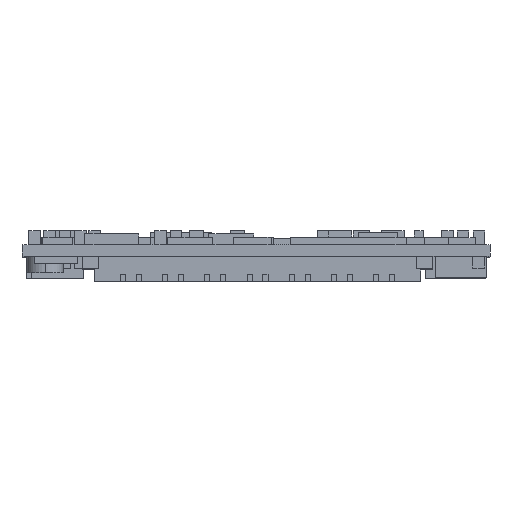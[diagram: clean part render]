
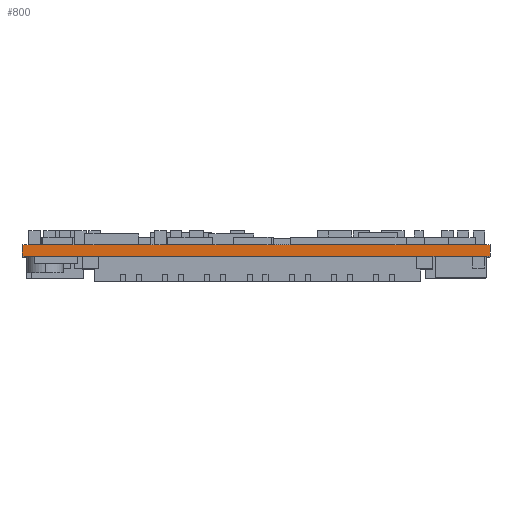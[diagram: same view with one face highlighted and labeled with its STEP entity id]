
A CAD part, top view. The second image highlights one B-rep face of the part: STEP entity #800.
In plain terms, the highlighted planar face has unit normal (0, 0, 1).
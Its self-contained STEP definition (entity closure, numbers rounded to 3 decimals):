
#800 = ADVANCED_FACE ( 'NONE', ( #7051 ), #7055, .F. ) ;
#947 = EDGE_CURVE ( 'NONE', #5271, #5272, #8453, .T. ) ;
#1034 = EDGE_LOOP ( 'NONE', ( #1153, #1154, #1155, #1156 ) ) ;
#1153 = ORIENTED_EDGE ( 'NONE', *, *, #947, .T. ) ;
#1154 = ORIENTED_EDGE ( 'NONE', *, *, #1383, .F. ) ;
#1155 = ORIENTED_EDGE ( 'NONE', *, *, #1282, .F. ) ;
#1156 = ORIENTED_EDGE ( 'NONE', *, *, #1381, .T. ) ;
#1282 = EDGE_CURVE ( 'NONE', #6102, #6101, #9123, .T. ) ;
#1381 = EDGE_CURVE ( 'NONE', #6102, #5271, #9639, .T. ) ;
#1383 = EDGE_CURVE ( 'NONE', #6101, #5272, #9647, .T. ) ;
#5271 = VERTEX_POINT ( 'NONE', #20538 ) ;
#5272 = VERTEX_POINT ( 'NONE', #20539 ) ;
#6101 = VERTEX_POINT ( 'NONE', #21016 ) ;
#6102 = VERTEX_POINT ( 'NONE', #21017 ) ;
#7051 = FACE_OUTER_BOUND ( 'NONE', #1034, .T. ) ;
#7055 = PLANE ( 'NONE',  #21885 ) ;
#7057 = CARTESIAN_POINT ( 'NONE',  ( -32.5, 1.6, 37.5 ) ) ;
#7059 = DIRECTION ( 'NONE',  ( 0., 0., -1. ) ) ;
#7060 = DIRECTION ( 'NONE',  ( -1., 0., 0. ) ) ;
#8453 = LINE ( 'NONE', #8459, #8661 ) ;
#8459 = CARTESIAN_POINT ( 'NONE',  ( -32.5, 0., 37.5 ) ) ;
#8461 = DIRECTION ( 'NONE',  ( 1., 0., 0. ) ) ;
#8661 = VECTOR ( 'NONE', #8461, 1000. ) ;
#9123 = LINE ( 'NONE', #9130, #9340 ) ;
#9130 = CARTESIAN_POINT ( 'NONE',  ( -32.5, 1.6, 37.5 ) ) ;
#9131 = DIRECTION ( 'NONE',  ( 1., 0., 0. ) ) ;
#9340 = VECTOR ( 'NONE', #9131, 1000. ) ;
#9617 = CARTESIAN_POINT ( 'NONE',  ( -32.5, 1.6, 37.5 ) ) ;
#9639 = LINE ( 'NONE', #9617, #9944 ) ;
#9643 = DIRECTION ( 'NONE',  ( 0., -1., 0. ) ) ;
#9647 = LINE ( 'NONE', #9648, #9949 ) ;
#9648 = CARTESIAN_POINT ( 'NONE',  ( 32.5, 1.6, 37.5 ) ) ;
#9649 = DIRECTION ( 'NONE',  ( 0., -1., 0. ) ) ;
#9944 = VECTOR ( 'NONE', #9643, 1000. ) ;
#9949 = VECTOR ( 'NONE', #9649, 1000. ) ;
#20538 = CARTESIAN_POINT ( 'NONE',  ( -32.5, 0., 37.5 ) ) ;
#20539 = CARTESIAN_POINT ( 'NONE',  ( 32.5, 0., 37.5 ) ) ;
#21016 = CARTESIAN_POINT ( 'NONE',  ( 32.5, 1.6, 37.5 ) ) ;
#21017 = CARTESIAN_POINT ( 'NONE',  ( -32.5, 1.6, 37.5 ) ) ;
#21885 = AXIS2_PLACEMENT_3D ( 'NONE', #7057, #7059, #7060 ) ;
